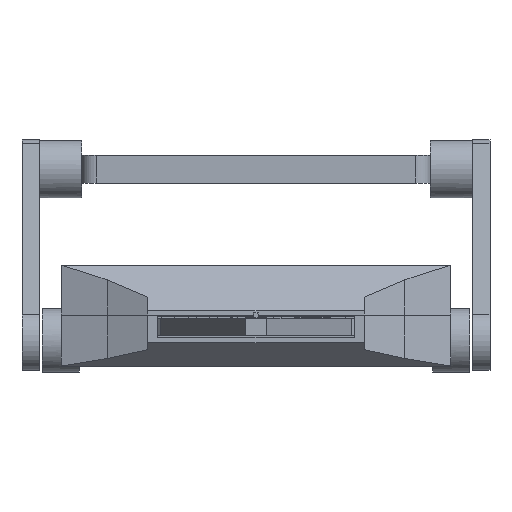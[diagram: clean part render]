
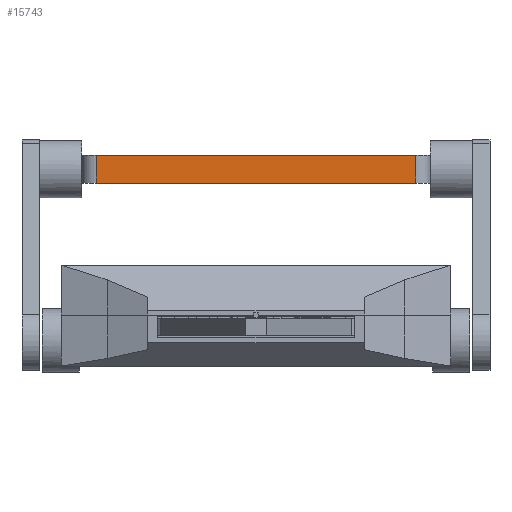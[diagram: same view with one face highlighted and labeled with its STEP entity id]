
A CAD part, front view. The second image highlights one B-rep face of the part: STEP entity #15743.
In plain terms, the highlighted planar face has unit normal (0, -1, 0).
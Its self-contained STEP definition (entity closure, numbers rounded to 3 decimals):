
#14770 = PLANE('',#14771);
#14771 = AXIS2_PLACEMENT_3D('',#14772,#14773,#14774);
#14772 = CARTESIAN_POINT('',(15.,131.2,15.3));
#14773 = DIRECTION('',(0.,0.,1.));
#14774 = DIRECTION('',(1.,0.,-0.));
#14802 = PLANE('',#14803);
#14803 = AXIS2_PLACEMENT_3D('',#14804,#14805,#14806);
#14804 = CARTESIAN_POINT('',(15.,131.2,12.7));
#14805 = DIRECTION('',(0.,0.,1.));
#14806 = DIRECTION('',(1.,0.,-0.));
#14908 = CYLINDRICAL_SURFACE('',#14909,1.4);
#14909 = AXIS2_PLACEMENT_3D('',#14910,#14911,#14912);
#14910 = CARTESIAN_POINT('',(15.,131.2,12.7));
#14911 = DIRECTION('',(0.,0.,1.));
#14912 = DIRECTION('',(1.,0.,-0.));
#15000 = EDGE_CURVE('',#15001,#15003,#15005,.T.);
#15001 = VERTEX_POINT('',#15002);
#15002 = CARTESIAN_POINT('',(-15.,129.8,15.3));
#15003 = VERTEX_POINT('',#15004);
#15004 = CARTESIAN_POINT('',(15.,129.8,15.3));
#15005 = SURFACE_CURVE('',#15006,(#15010,#15017),.PCURVE_S1.);
#15006 = LINE('',#15007,#15008);
#15007 = CARTESIAN_POINT('',(-15.,129.8,15.3));
#15008 = VECTOR('',#15009,1.);
#15009 = DIRECTION('',(1.,0.,-0.));
#15010 = PCURVE('',#14770,#15011);
#15011 = DEFINITIONAL_REPRESENTATION('',(#15012),#15016);
#15012 = LINE('',#15013,#15014);
#15013 = CARTESIAN_POINT('',(-30.,-1.4));
#15014 = VECTOR('',#15015,1.);
#15015 = DIRECTION('',(1.,0.));
#15016 = ( GEOMETRIC_REPRESENTATION_CONTEXT(2) 
PARAMETRIC_REPRESENTATION_CONTEXT() REPRESENTATION_CONTEXT('2D SPACE',''
  ) );
#15017 = PCURVE('',#15018,#15023);
#15018 = PLANE('',#15019);
#15019 = AXIS2_PLACEMENT_3D('',#15020,#15021,#15022);
#15020 = CARTESIAN_POINT('',(-15.,129.8,12.7));
#15021 = DIRECTION('',(-0.,1.,0.));
#15022 = DIRECTION('',(0.,0.,1.));
#15023 = DEFINITIONAL_REPRESENTATION('',(#15024),#15028);
#15024 = LINE('',#15025,#15026);
#15025 = CARTESIAN_POINT('',(2.6,0.));
#15026 = VECTOR('',#15027,1.);
#15027 = DIRECTION('',(0.,1.));
#15028 = ( GEOMETRIC_REPRESENTATION_CONTEXT(2) 
PARAMETRIC_REPRESENTATION_CONTEXT() REPRESENTATION_CONTEXT('2D SPACE',''
  ) );
#15235 = CYLINDRICAL_SURFACE('',#15236,1.4);
#15236 = AXIS2_PLACEMENT_3D('',#15237,#15238,#15239);
#15237 = CARTESIAN_POINT('',(-15.,131.2,12.7));
#15238 = DIRECTION('',(0.,0.,1.));
#15239 = DIRECTION('',(1.,0.,-0.));
#15406 = EDGE_CURVE('',#15407,#15409,#15411,.T.);
#15407 = VERTEX_POINT('',#15408);
#15408 = CARTESIAN_POINT('',(-15.,129.8,12.7));
#15409 = VERTEX_POINT('',#15410);
#15410 = CARTESIAN_POINT('',(15.,129.8,12.7));
#15411 = SURFACE_CURVE('',#15412,(#15416,#15423),.PCURVE_S1.);
#15412 = LINE('',#15413,#15414);
#15413 = CARTESIAN_POINT('',(-15.,129.8,12.7));
#15414 = VECTOR('',#15415,1.);
#15415 = DIRECTION('',(1.,0.,-0.));
#15416 = PCURVE('',#14802,#15417);
#15417 = DEFINITIONAL_REPRESENTATION('',(#15418),#15422);
#15418 = LINE('',#15419,#15420);
#15419 = CARTESIAN_POINT('',(-30.,-1.4));
#15420 = VECTOR('',#15421,1.);
#15421 = DIRECTION('',(1.,0.));
#15422 = ( GEOMETRIC_REPRESENTATION_CONTEXT(2) 
PARAMETRIC_REPRESENTATION_CONTEXT() REPRESENTATION_CONTEXT('2D SPACE',''
  ) );
#15423 = PCURVE('',#15018,#15424);
#15424 = DEFINITIONAL_REPRESENTATION('',(#15425),#15429);
#15425 = LINE('',#15426,#15427);
#15426 = CARTESIAN_POINT('',(0.,0.));
#15427 = VECTOR('',#15428,1.);
#15428 = DIRECTION('',(0.,1.));
#15429 = ( GEOMETRIC_REPRESENTATION_CONTEXT(2) 
PARAMETRIC_REPRESENTATION_CONTEXT() REPRESENTATION_CONTEXT('2D SPACE',''
  ) );
#15667 = EDGE_CURVE('',#15409,#15003,#15668,.T.);
#15668 = SURFACE_CURVE('',#15669,(#15673,#15680),.PCURVE_S1.);
#15669 = LINE('',#15670,#15671);
#15670 = CARTESIAN_POINT('',(15.,129.8,12.7));
#15671 = VECTOR('',#15672,1.);
#15672 = DIRECTION('',(0.,0.,1.));
#15673 = PCURVE('',#14908,#15674);
#15674 = DEFINITIONAL_REPRESENTATION('',(#15675),#15679);
#15675 = LINE('',#15676,#15677);
#15676 = CARTESIAN_POINT('',(4.712,0.));
#15677 = VECTOR('',#15678,1.);
#15678 = DIRECTION('',(0.,1.));
#15679 = ( GEOMETRIC_REPRESENTATION_CONTEXT(2) 
PARAMETRIC_REPRESENTATION_CONTEXT() REPRESENTATION_CONTEXT('2D SPACE',''
  ) );
#15680 = PCURVE('',#15018,#15681);
#15681 = DEFINITIONAL_REPRESENTATION('',(#15682),#15686);
#15682 = LINE('',#15683,#15684);
#15683 = CARTESIAN_POINT('',(0.,30.));
#15684 = VECTOR('',#15685,1.);
#15685 = DIRECTION('',(1.,0.));
#15686 = ( GEOMETRIC_REPRESENTATION_CONTEXT(2) 
PARAMETRIC_REPRESENTATION_CONTEXT() REPRESENTATION_CONTEXT('2D SPACE',''
  ) );
#15743 = ADVANCED_FACE('',(#15744),#15018,.F.);
#15744 = FACE_BOUND('',#15745,.F.);
#15745 = EDGE_LOOP('',(#15746,#15747,#15768,#15769));
#15746 = ORIENTED_EDGE('',*,*,#15406,.F.);
#15747 = ORIENTED_EDGE('',*,*,#15748,.T.);
#15748 = EDGE_CURVE('',#15407,#15001,#15749,.T.);
#15749 = SURFACE_CURVE('',#15750,(#15754,#15761),.PCURVE_S1.);
#15750 = LINE('',#15751,#15752);
#15751 = CARTESIAN_POINT('',(-15.,129.8,12.7));
#15752 = VECTOR('',#15753,1.);
#15753 = DIRECTION('',(0.,0.,1.));
#15754 = PCURVE('',#15018,#15755);
#15755 = DEFINITIONAL_REPRESENTATION('',(#15756),#15760);
#15756 = LINE('',#15757,#15758);
#15757 = CARTESIAN_POINT('',(0.,0.));
#15758 = VECTOR('',#15759,1.);
#15759 = DIRECTION('',(1.,0.));
#15760 = ( GEOMETRIC_REPRESENTATION_CONTEXT(2) 
PARAMETRIC_REPRESENTATION_CONTEXT() REPRESENTATION_CONTEXT('2D SPACE',''
  ) );
#15761 = PCURVE('',#15235,#15762);
#15762 = DEFINITIONAL_REPRESENTATION('',(#15763),#15767);
#15763 = LINE('',#15764,#15765);
#15764 = CARTESIAN_POINT('',(4.712,0.));
#15765 = VECTOR('',#15766,1.);
#15766 = DIRECTION('',(0.,1.));
#15767 = ( GEOMETRIC_REPRESENTATION_CONTEXT(2) 
PARAMETRIC_REPRESENTATION_CONTEXT() REPRESENTATION_CONTEXT('2D SPACE',''
  ) );
#15768 = ORIENTED_EDGE('',*,*,#15000,.T.);
#15769 = ORIENTED_EDGE('',*,*,#15667,.F.);
